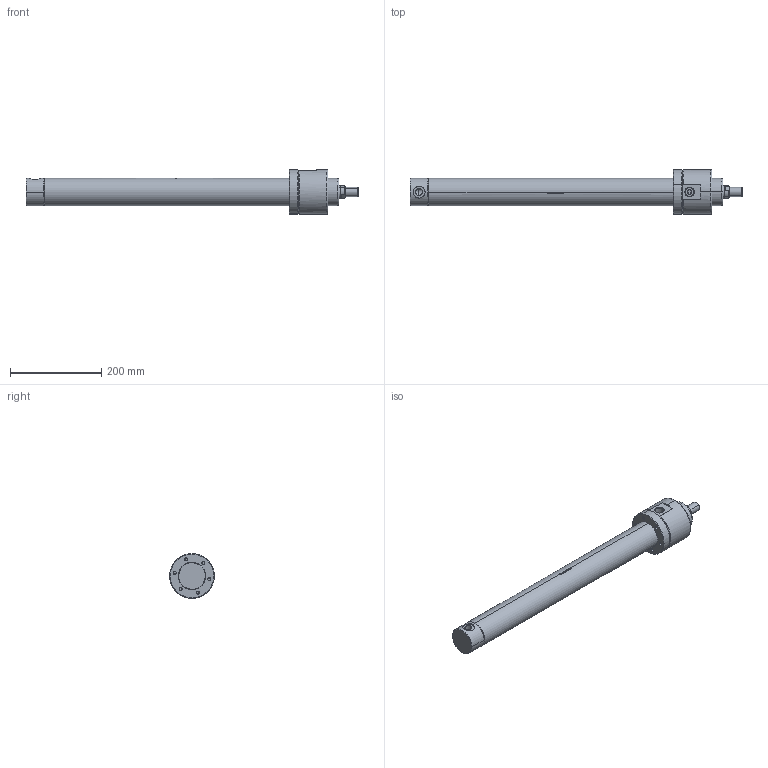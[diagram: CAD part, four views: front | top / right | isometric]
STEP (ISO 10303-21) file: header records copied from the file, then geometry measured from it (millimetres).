
FILE_DESCRIPTION (( 'STEP AP214' ), '1' );
FILE_NAME ('KHCC_50_28_500_WEB.STEP', '2020-12-15T11:43:35', ( '' ), ( '' ), 'SwSTEP 2.0', 'SolidWorks 2021', '' );
FILE_SCHEMA (( 'AUTOMOTIVE_DESIGN' ));
Length unit declared in the file: millimetre
Products named in the file (9): 50_28_烰_KAPAK; 50_28_gerdirme_flans; K06-28X38_2X5_3X7; 28_K_MIL_WEB; KHCC_50_28_500_WEB; K32-28X38X6; TYAK_50_60; 50_H.BORU_WEB
Assembly tree (8 placements, depth 3):
  KHCC_50_28_500_WEB
    50_28_烰_KAPAK
      50_28_烰_KAPAK
      K06-28X38_2X5_3X7
      K32-28X38X6
      50_28_gerdirme_flans
    50_H.BORU_WEB
    28_K_MIL_WEB
    TYAK_50_60
Bounding box: 728 x 98 x 98 mm (x, y, z)
Volume: 1178347.1 mm3; surface area: 309440.6 mm2
Topology: 7 solids, 7 shells, 468 faces, 1110 edges, 690 vertices
Faces by surface type: bspline 165, plane 120, cylinder 113, cone 66, torus 4
Entity records: 20644 total; most frequent: CARTESIAN_POINT 8588, ORIENTED_EDGE 2220, DIRECTION 1674, EDGE_CURVE 1110, VERTEX_POINT 690, AXIS2_PLACEMENT_3D 621, EDGE_LOOP 540, FACE_OUTER_BOUND 468
